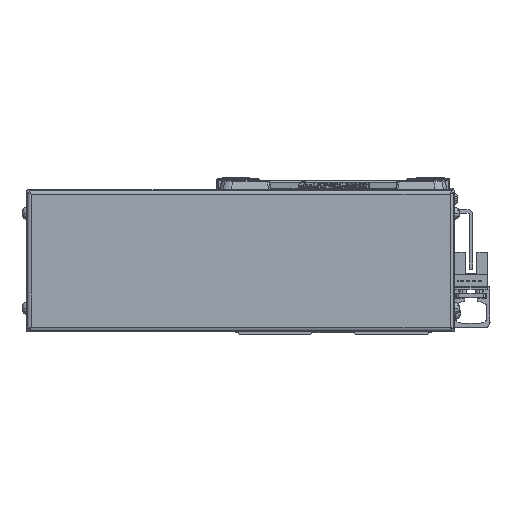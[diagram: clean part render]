
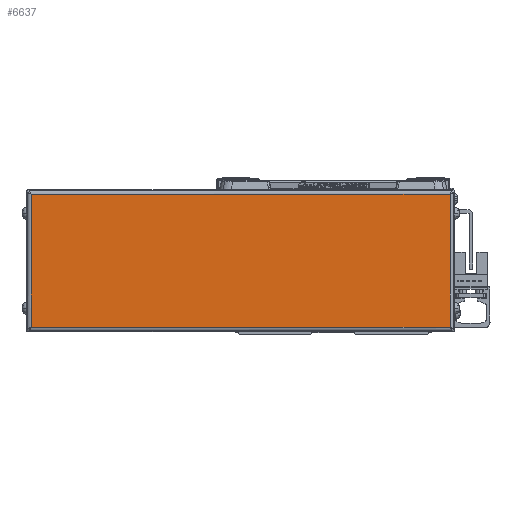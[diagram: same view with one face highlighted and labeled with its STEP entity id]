
A CAD part, left-side view. The second image highlights one B-rep face of the part: STEP entity #6637.
In plain terms, the highlighted planar face has unit normal (-1, 0, 0).
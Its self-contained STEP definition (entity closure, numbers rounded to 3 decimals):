
#6637=ADVANCED_FACE('',(#13572),#13573,.F.);
#13572=FACE_OUTER_BOUND('',#21576,.T.);
#13573=PLANE('',#21577);
#21576=EDGE_LOOP('',(#40374,#40375,#40376,#40377));
#21577=AXIS2_PLACEMENT_3D('',#40378,#40379,#40380);
#40374=ORIENTED_EDGE('',*,*,#49752,.T.);
#40375=ORIENTED_EDGE('',*,*,#46159,.T.);
#40376=ORIENTED_EDGE('',*,*,#46787,.T.);
#40377=ORIENTED_EDGE('',*,*,#46456,.T.);
#40378=CARTESIAN_POINT('',(-616.,39.,0.));
#40379=DIRECTION('',(1.0,0.,0.));
#40380=DIRECTION('',(0.,0.,1.0));
#46159=EDGE_CURVE('',#56411,#56409,#56412,.T.);
#46456=EDGE_CURVE('',#56874,#56872,#56875,.T.);
#46787=EDGE_CURVE('',#56409,#56874,#57374,.T.);
#49752=EDGE_CURVE('',#56872,#56411,#61502,.T.);
#56409=VERTEX_POINT('',#70049);
#56411=VERTEX_POINT('',#70051);
#56412=LINE('',#70052,#70053);
#56872=VERTEX_POINT('',#70667);
#56874=VERTEX_POINT('',#70669);
#56875=LINE('',#70670,#70671);
#57374=LINE('',#71360,#71361);
#61502=LINE('',#77083,#77084);
#70049=CARTESIAN_POINT('',(-616.0,127.2,-28.));
#70051=CARTESIAN_POINT('',(-616.0,127.2,28.));
#70052=CARTESIAN_POINT('',(-616.0,127.2,0.));
#70053=VECTOR('',#83773,10.0);
#70667=CARTESIAN_POINT('',(-616.,-49.2,28.));
#70669=CARTESIAN_POINT('',(-616.,-49.2,-28.));
#70670=CARTESIAN_POINT('',(-616.,-49.2,0.));
#70671=VECTOR('',#84145,10.0);
#71360=CARTESIAN_POINT('',(-616.0,39.,-28.));
#71361=VECTOR('',#84543,10.0);
#77083=CARTESIAN_POINT('',(-616.,39.,28.));
#77084=VECTOR('',#88129,10.0);
#83773=DIRECTION('',(0.,0.,-1.0));
#84145=DIRECTION('',(0.,0.,1.0));
#84543=DIRECTION('',(0.,-1.0,0.));
#88129=DIRECTION('',(0.,1.0,0.));
